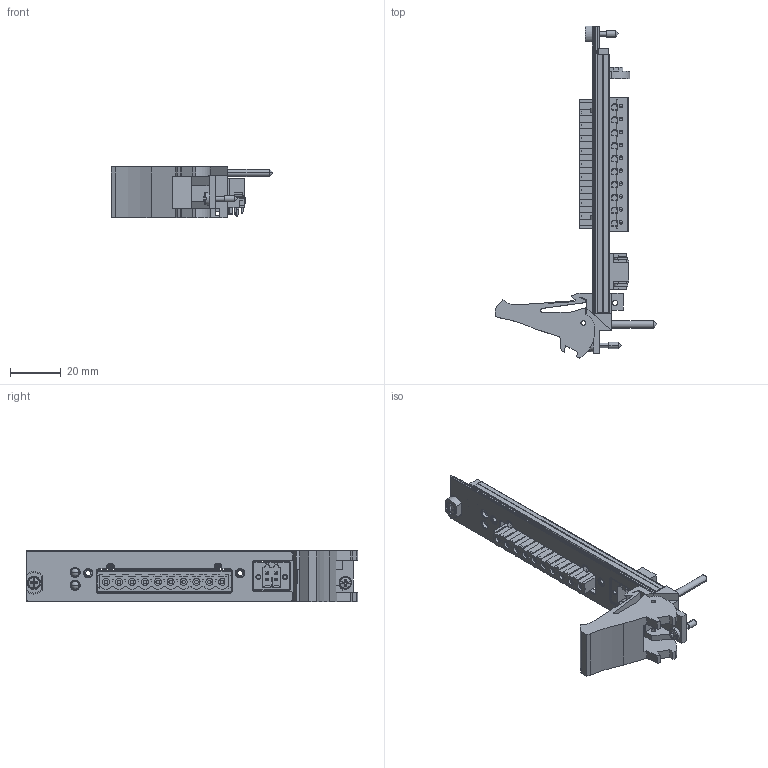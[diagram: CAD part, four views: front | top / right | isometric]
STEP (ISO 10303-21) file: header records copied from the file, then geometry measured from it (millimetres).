
FILE_DESCRIPTION((''),'2;1');
FILE_NAME('CU_PXIE-411X','2013-03-20T',('jjorden'),(''),'PRO/ENGINEER BY PARAMETRIC TECHNOLOGY CORPORATION, 2011490','PRO/ENGINEER BY PARAMETRIC TECHNOLOGY CORPORATION, 2011490','');
FILE_SCHEMA(('CONFIG_CONTROL_DESIGN'));
Length unit declared in the file: inch
Products named in the file (1): CU_PXIE-411X
Bounding box: 63.53 x 130.5 x 20.29 mm (x, y, z)
Volume: 21653.1 mm3; surface area: 20328.3 mm2
Topology: 4 solids, 4 shells, 2123 faces, 5092 edges, 3084 vertices
Faces by surface type: plane 1669, cylinder 386, cone 48, sphere 16, torus 4
Entity records: 62620 total; most frequent: CARTESIAN_POINT 13301, ORIENTED_EDGE 10160, DIRECTION 10119, EDGE_CURVE 5080, VECTOR 3713, LINE 3713, AXIS2_PLACEMENT_3D 3203, VERTEX_POINT 3084
